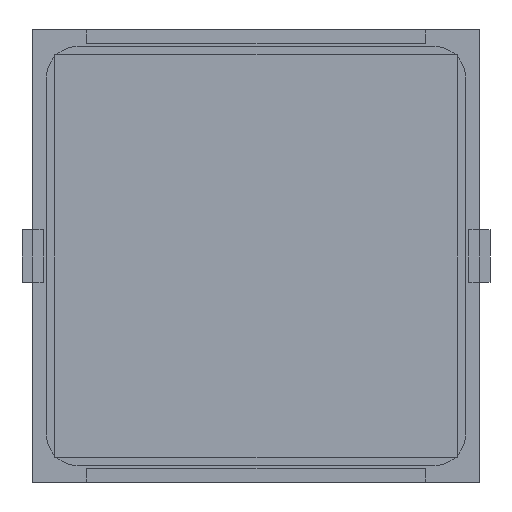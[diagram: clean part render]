
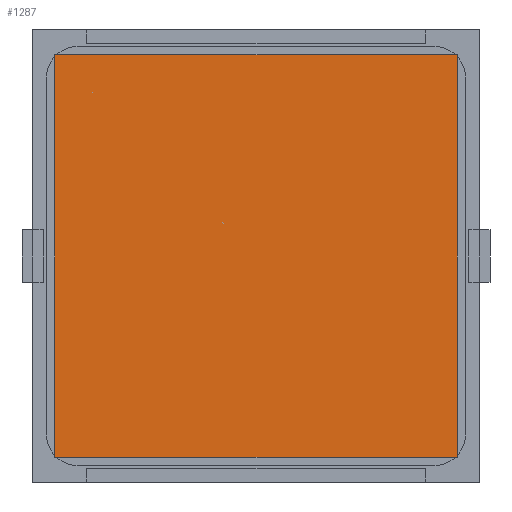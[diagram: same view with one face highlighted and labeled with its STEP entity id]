
A CAD part, front view. The second image highlights one B-rep face of the part: STEP entity #1287.
In plain terms, the highlighted planar face has unit normal (0, -1, 0).
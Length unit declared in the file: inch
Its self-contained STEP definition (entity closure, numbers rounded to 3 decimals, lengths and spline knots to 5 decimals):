
#320 = VERTEX_POINT ( 'NONE', #14465 ) ;
#554 = AXIS2_PLACEMENT_3D ( 'NONE', #10153, #1278, #15827 ) ;
#905 = EDGE_CURVE ( 'NONE', #4292, #14394, #16573, .T. ) ;
#1278 = DIRECTION ( 'NONE',  ( 0., -1., 0. ) ) ;
#1287 = ADVANCED_FACE ( 'NONE', ( #17185 ), #7170, .T. ) ;
#1393 = VERTEX_POINT ( 'NONE', #14099 ) ;
#1637 = VECTOR ( 'NONE', #11043, 39.37008 ) ;
#1920 = LINE ( 'NONE', #16354, #14305 ) ;
#2143 = CARTESIAN_POINT ( 'NONE',  ( 0.74803, -0.005, -0.74803 ) ) ;
#2210 = ORIENTED_EDGE ( 'NONE', *, *, #7247, .T. ) ;
#2410 = DIRECTION ( 'NONE',  ( 1., 0., 0. ) ) ;
#2905 = CARTESIAN_POINT ( 'NONE',  ( 0.74803, -0.005, 0.74803 ) ) ;
#3290 = ORIENTED_EDGE ( 'NONE', *, *, #905, .T. ) ;
#4292 = VERTEX_POINT ( 'NONE', #15485 ) ;
#4702 = CARTESIAN_POINT ( 'NONE',  ( 0.74803, -0.005, -0.74803 ) ) ;
#5313 = ORIENTED_EDGE ( 'NONE', *, *, #15347, .T. ) ;
#5626 = ORIENTED_EDGE ( 'NONE', *, *, #14553, .T. ) ;
#6628 = CARTESIAN_POINT ( 'NONE',  ( -0.74803, -0.005, -0.74803 ) ) ;
#7170 = PLANE ( 'NONE',  #554 ) ;
#7247 = EDGE_CURVE ( 'NONE', #14394, #320, #1920, .T. ) ;
#8753 = VECTOR ( 'NONE', #2410, 39.37008 ) ;
#10153 = CARTESIAN_POINT ( 'NONE',  ( 0.74803, -0.005, 0.74803 ) ) ;
#10563 = EDGE_LOOP ( 'NONE', ( #3290, #2210, #5626, #5313 ) ) ;
#11043 = DIRECTION ( 'NONE',  ( 0., 0., -1. ) ) ;
#12026 = DIRECTION ( 'NONE',  ( -1., 0., 0. ) ) ;
#13529 = DIRECTION ( 'NONE',  ( 0., 0., 1. ) ) ;
#14099 = CARTESIAN_POINT ( 'NONE',  ( -0.74803, -0.005, -0.74803 ) ) ;
#14305 = VECTOR ( 'NONE', #12026, 39.37008 ) ;
#14394 = VERTEX_POINT ( 'NONE', #2905 ) ;
#14465 = CARTESIAN_POINT ( 'NONE',  ( -0.74803, -0.005, 0.74803 ) ) ;
#14553 = EDGE_CURVE ( 'NONE', #320, #1393, #18681, .T. ) ;
#15285 = VECTOR ( 'NONE', #13529, 39.37008 ) ;
#15347 = EDGE_CURVE ( 'NONE', #1393, #4292, #18507, .T. ) ;
#15485 = CARTESIAN_POINT ( 'NONE',  ( 0.74803, -0.005, -0.74803 ) ) ;
#15827 = DIRECTION ( 'NONE',  ( 0., 0., 1. ) ) ;
#16354 = CARTESIAN_POINT ( 'NONE',  ( 0.74803, -0.005, 0.74803 ) ) ;
#16573 = LINE ( 'NONE', #4702, #15285 ) ;
#17185 = FACE_OUTER_BOUND ( 'NONE', #10563, .T. ) ;
#18507 = LINE ( 'NONE', #2143, #8753 ) ;
#18681 = LINE ( 'NONE', #6628, #1637 ) ;
